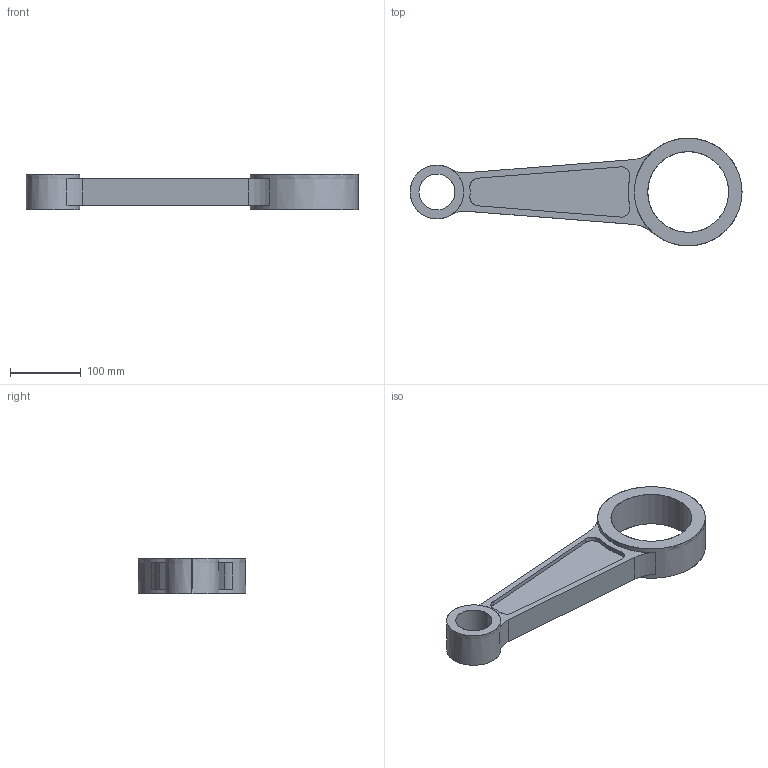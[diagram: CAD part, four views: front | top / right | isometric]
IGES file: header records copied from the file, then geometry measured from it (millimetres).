
Start section: SolidWorks IGES file using analytic representation for surfaces
Global section: file name: C:\Users\bjeps\Desktop\Ex_Files_SOLIDWORKS_Simulation_FEA\Ex_Files_SOLIDWORKS_Simulation_FEA\Exercise Files\01_01\Begin\con_rod_baseline.IGS; native system: SolidWorks 2019; preprocessor: SolidWorks 2019; author: bjeps; date: 190612.134722; units: inch
Bounding box: 469.9 x 152.4 x 50.8 mm (x, y, z)
Surface area: 141690 mm2 (no closed solid volume)
Topology: 0 solids, 0 shells, 44 faces, 992 edges, 992 vertices
Faces by surface type: revolution 30, bspline 14
